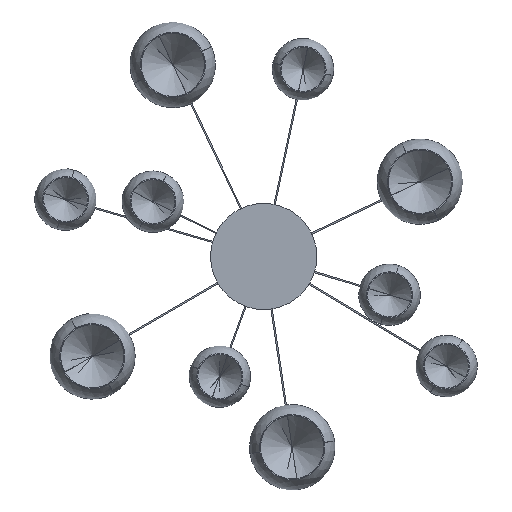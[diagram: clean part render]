
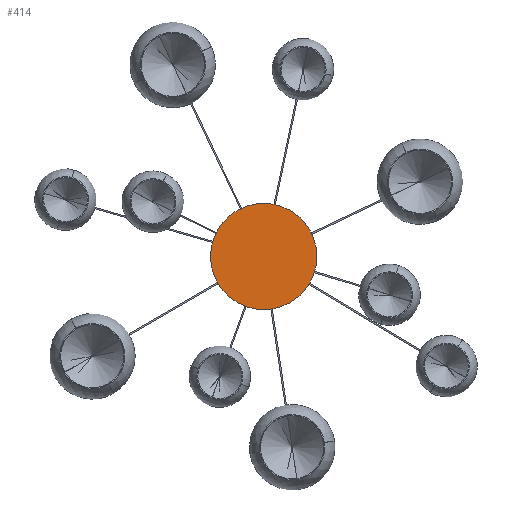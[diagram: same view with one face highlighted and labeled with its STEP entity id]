
A CAD part, front view. The second image highlights one B-rep face of the part: STEP entity #414.
In plain terms, the highlighted planar face has unit normal (0, -1, 0).
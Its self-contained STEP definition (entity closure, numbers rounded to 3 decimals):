
#414 = ADVANCED_FACE ( 'NONE', ( #2025 ), #4864, .F. ) ;
#634 = AXIS2_PLACEMENT_3D ( 'NONE', #2036, #6352, #4276 ) ;
#821 = CIRCLE ( 'NONE', #1980, 155. ) ;
#1205 = EDGE_LOOP ( 'NONE', ( #6005, #8959 ) ) ;
#1502 = CARTESIAN_POINT ( 'NONE',  ( 0., 0., 0. ) ) ;
#1859 = EDGE_CURVE ( 'NONE', #6521, #5992, #821, .T. ) ;
#1980 = AXIS2_PLACEMENT_3D ( 'NONE', #1502, #7933, #8672 ) ;
#2025 = FACE_OUTER_BOUND ( 'NONE', #1205, .T. ) ;
#2036 = CARTESIAN_POINT ( 'NONE',  ( 0., 0., 0. ) ) ;
#2663 = CIRCLE ( 'NONE', #634, 155. ) ;
#3342 = CARTESIAN_POINT ( 'NONE',  ( 0., 0., -155. ) ) ;
#3899 = CARTESIAN_POINT ( 'NONE',  ( 0., 0., 155. ) ) ;
#4275 = AXIS2_PLACEMENT_3D ( 'NONE', #7691, #7173, #5641 ) ;
#4276 = DIRECTION ( 'NONE',  ( 0., 0., 1. ) ) ;
#4864 = PLANE ( 'NONE',  #4275 ) ;
#4968 = EDGE_CURVE ( 'NONE', #5992, #6521, #2663, .T. ) ;
#5641 = DIRECTION ( 'NONE',  ( 0., 0., 1. ) ) ;
#5992 = VERTEX_POINT ( 'NONE', #3899 ) ;
#6005 = ORIENTED_EDGE ( 'NONE', *, *, #1859, .F. ) ;
#6352 = DIRECTION ( 'NONE',  ( 0., 1., 0. ) ) ;
#6521 = VERTEX_POINT ( 'NONE', #3342 ) ;
#7173 = DIRECTION ( 'NONE',  ( 0., 1., 0. ) ) ;
#7691 = CARTESIAN_POINT ( 'NONE',  ( 0., 0., 0. ) ) ;
#7933 = DIRECTION ( 'NONE',  ( 0., 1., 0. ) ) ;
#8672 = DIRECTION ( 'NONE',  ( 0., 0., 1. ) ) ;
#8959 = ORIENTED_EDGE ( 'NONE', *, *, #4968, .F. ) ;
